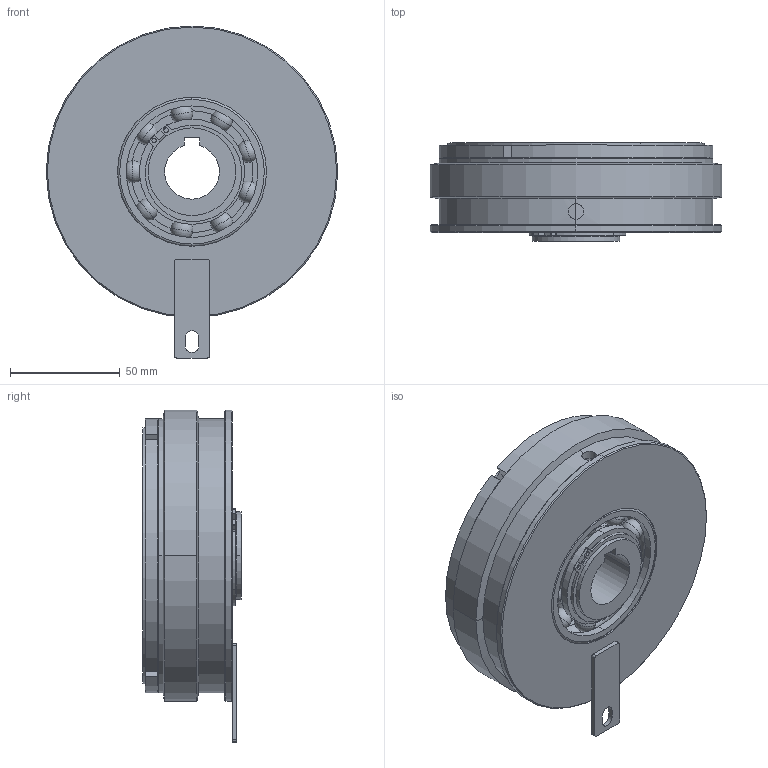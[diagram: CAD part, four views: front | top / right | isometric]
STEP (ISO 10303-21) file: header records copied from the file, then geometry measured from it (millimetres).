
FILE_DESCRIPTION (( 'STEP AP214' ), '1' );
FILE_NAME ('C-M40-R01-25.STEP', '2016-03-11T01:19:23', ( 'tec4' ), ( '' ), 'SwSTEP 2.0', 'SolidWorks 2015', '' );
FILE_SCHEMA (( 'AUTOMOTIVE_DESIGN' ));
Length unit declared in the file: millimetre
Products named in the file (9): 5M40-22009-25; 5M40-12119; C-M40-R01-25; 5M40-41119; 5M40-12129; 5M40-41129; 5M40-22219; S-40; BR6008
Assembly tree (8 placements, depth 2):
  C-M40-R01-25
    5M40-12119
    5M40-22009-25
    BR6008
    S-40
    5M40-22219
    5M40-41129
    5M40-12129
    5M40-41119
Bounding box: 133 x 44.75 x 151.5 mm (x, y, z)
Volume: 321135 mm3; surface area: 165890.9 mm2
Topology: 8 solids, 8 shells, 300 faces, 752 edges, 472 vertices
Faces by surface type: cylinder 184, plane 60, cone 22, sphere 18, torus 16
Entity records: 9865 total; most frequent: CARTESIAN_POINT 1969, DIRECTION 1705, ORIENTED_EDGE 1460, EDGE_CURVE 730, AXIS2_PLACEMENT_3D 708, VERTEX_POINT 472, CIRCLE 397, EDGE_LOOP 396
